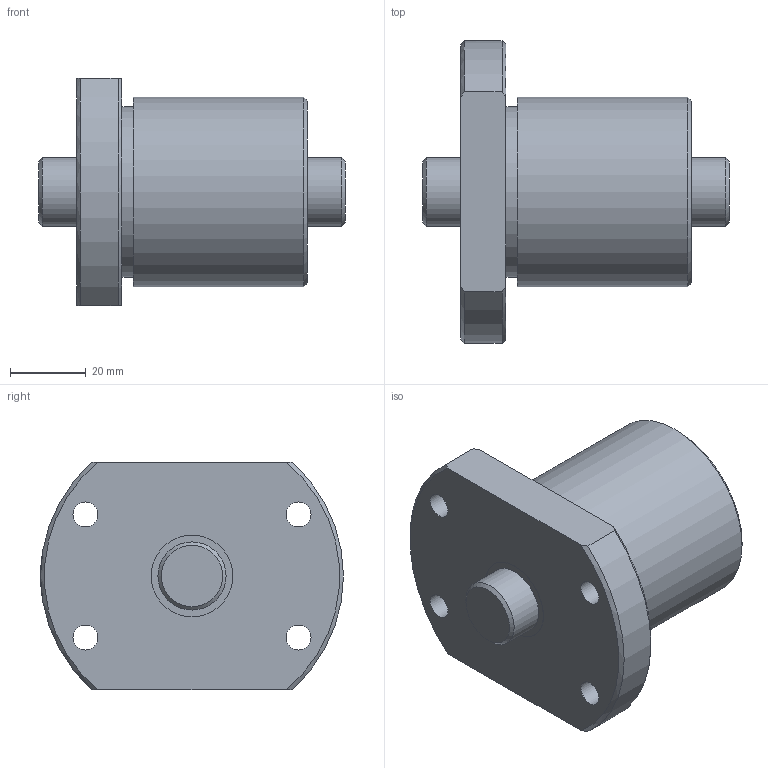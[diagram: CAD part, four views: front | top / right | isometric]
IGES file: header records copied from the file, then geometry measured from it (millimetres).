
Start section: Data from Parasolid IGES Translator 26.0.171, Copyright(c) 2006 Siemens PLM Software. All Rights Reserved.
Global section: file name: BTK1808V-3.6ZZ+81LC7T_000.igs; native system: By Siemens PLM Incorporated; preprocessor: XPlus GENERIC/IGES 26.0.171; author: Noname; organization: Noname; date: 20250116.075552; units: millimetre
Bounding box: 81 x 80 x 60 mm (x, y, z)
Surface area: 28768 mm2 (no closed solid volume)
Topology: 0 solids, 0 shells, 31 faces, 136 edges, 119 vertices
Faces by surface type: revolution 21, extrusion 10
